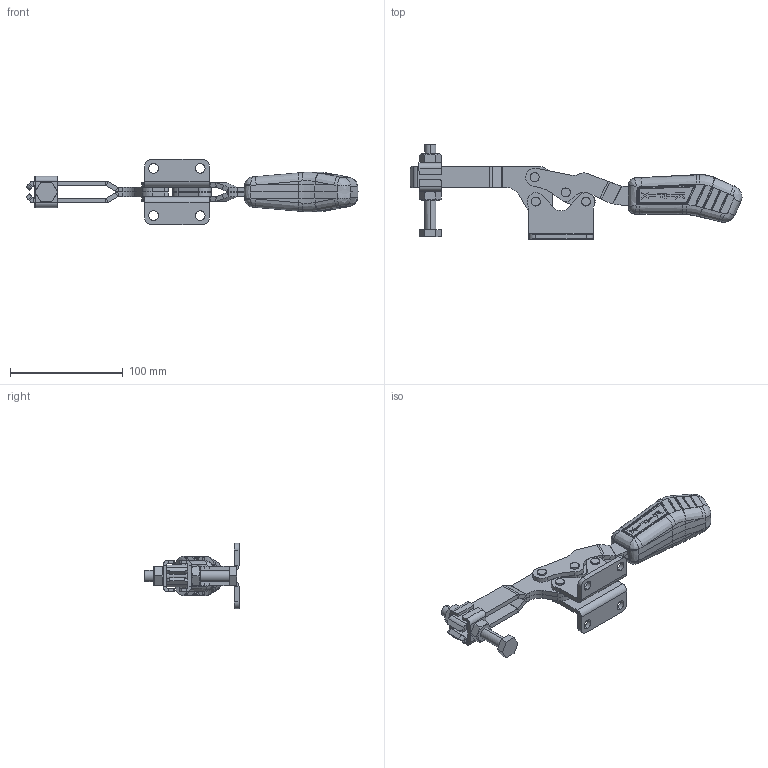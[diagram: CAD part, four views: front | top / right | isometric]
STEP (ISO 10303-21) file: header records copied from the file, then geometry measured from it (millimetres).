
FILE_DESCRIPTION (( 'STEP AP203' ), '1' );
FILE_NAME ('KF-532 D.STEP', '2014-08-18T16:41:54', ( 'Ricardo' ), ( '' ), 'SwSTEP 2.0', 'SolidWorks 2013', '' );
FILE_SCHEMA (( 'CONFIG_CONTROL_DESIGN' ));
Length unit declared in the file: millimetre
Products named in the file (13): 08.10039; 11.50003; 07.60002; KF-532 D; 06.50007; 02.12058_Direita; 14.10002; 02.12058_Esquerda; 12.50004; 01.10077_Direita; 01.10077_Esquerda; 03.13020_Direita; 03.13020_Esquerda
Assembly tree (18 placements, depth 2):
  KF-532 D
    02.12058_Direita
    02.12058_Esquerda
    01.10077_Direita
    01.10077_Esquerda
    03.13020_Direita
    03.13020_Esquerda
    08.10039  x2
    07.60002
    06.50007  x4
    14.10002  x2
    12.50004
    11.50003  x2
Bounding box: 294.39 x 83.41 x 57.9 mm (x, y, z)
Volume: 177057.8 mm3; surface area: 74490.4 mm2
Topology: 18 solids, 18 shells, 784 faces, 1936 edges, 1197 vertices
Faces by surface type: plane 312, cylinder 224, bspline 165, sphere 52, cone 28, torus 3
Entity records: 26221 total; most frequent: CARTESIAN_POINT 9473, ORIENTED_EDGE 3436, DIRECTION 2769, EDGE_CURVE 1718, VERTEX_POINT 1070, AXIS2_PLACEMENT_3D 1035, EDGE_LOOP 762, VECTOR 699
